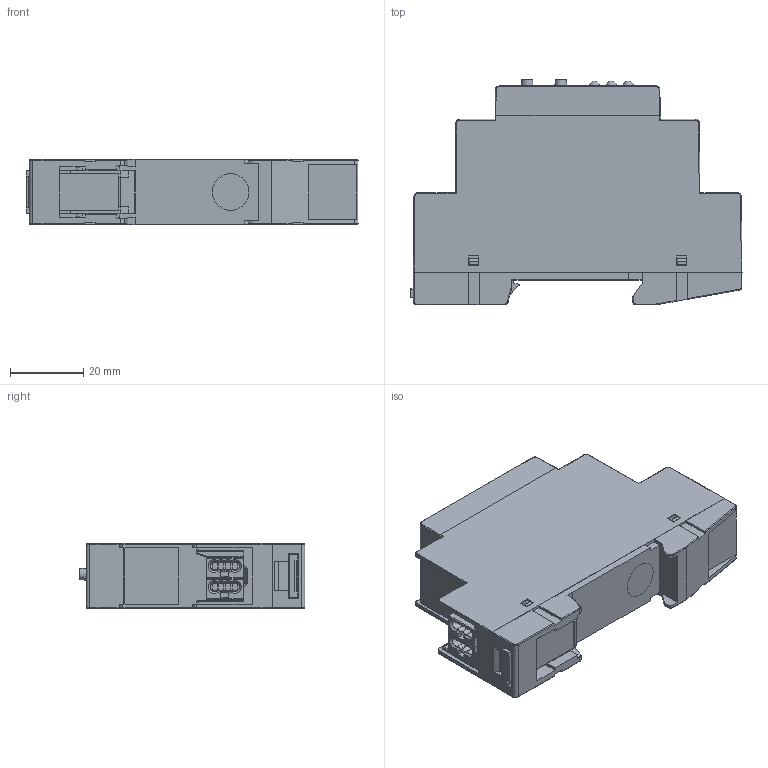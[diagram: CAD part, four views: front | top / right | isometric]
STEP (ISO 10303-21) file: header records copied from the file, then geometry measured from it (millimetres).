
FILE_DESCRIPTION(/* description */ (''),/* implementation_level */ '2;1');
FILE_NAME(/* name */ 'KNX_TP_LineCoupler_650.stp',/* time_stamp */ '2019-11-13T08:36:28+01:00',/* author */ (''),/* organization */ (''),/* preprocessor_version */ 'ST-DEVELOPER v17',/* originating_system */ 'Autodesk Inventor 2018',/* authorisation */ '');
FILE_SCHEMA (('AUTOMOTIVE_DESIGN { 1 0 10303 214 3 1 1 }'));
Length unit declared in the file: millimetre
Products named in the file (1): KNX_TP_LineCoupler_650
Bounding box: 90.7 x 61.7 x 17.8 mm (x, y, z)
Volume: 70438.8 mm3; surface area: 17709.6 mm2
Topology: 1 solids, 1 shells, 728 faces, 1887 edges, 1183 vertices
Faces by surface type: plane 442, cylinder 201, sphere 31, cone 27, torus 23, bspline 4
Full cylindrical faces by diameter (mm): 1.2 x1, 2.8 x1, 3 x3, 3.1 x3, 3.8 x2, 4.5 x1, 10 x1
Entity records: 22788 total; most frequent: CARTESIAN_POINT 4029, DIRECTION 3744, ORIENTED_EDGE 3736, EDGE_CURVE 1868, LINE 1368, VECTOR 1368, AXIS2_PLACEMENT_3D 1188, VERTEX_POINT 1183
